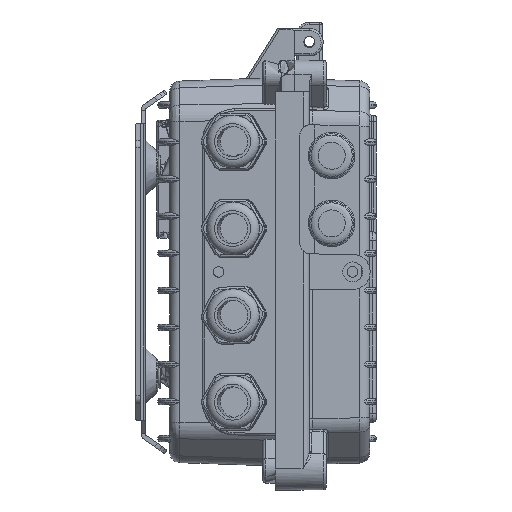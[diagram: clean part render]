
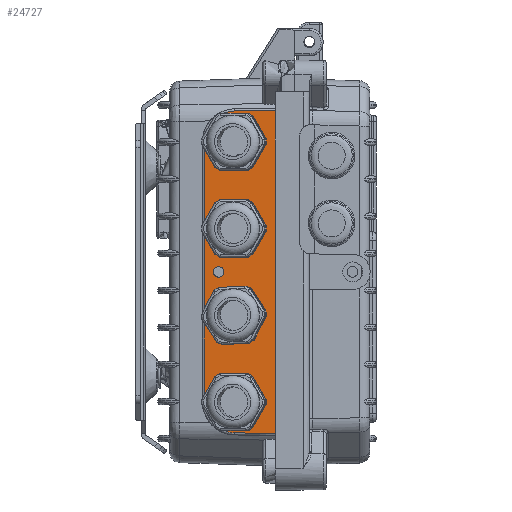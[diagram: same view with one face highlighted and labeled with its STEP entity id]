
A CAD part, left-side view. The second image highlights one B-rep face of the part: STEP entity #24727.
In plain terms, the highlighted planar face has unit normal (-0.999, 0.035, 0).
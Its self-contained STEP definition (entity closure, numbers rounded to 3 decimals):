
#1088=ELLIPSE('',#26645,14.509,14.5);
#1090=ELLIPSE('',#26650,14.509,14.5);
#1091=ELLIPSE('',#26653,2.502,2.5);
#1092=ELLIPSE('',#26654,10.306,10.3);
#1093=ELLIPSE('',#26655,10.306,10.3);
#1094=ELLIPSE('',#26656,10.306,10.3);
#1095=ELLIPSE('',#26657,10.306,10.3);
#2087=VECTOR('',#44666,1.);
#2088=VECTOR('',#44670,1.);
#2089=VECTOR('',#44674,1.);
#2090=VECTOR('',#44678,1.);
#2091=VECTOR('',#44683,1.);
#2094=VECTOR('',#44698,1.);
#2096=VECTOR('',#44708,1.);
#2097=VECTOR('',#44720,1.);
#3901=LINE('',#33081,#2087);
#3902=LINE('',#33086,#2088);
#3903=LINE('',#33091,#2089);
#3904=LINE('',#33096,#2090);
#3905=LINE('',#33119,#2091);
#3908=LINE('',#33164,#2094);
#3910=LINE('',#33220,#2096);
#3911=LINE('',#33228,#2097);
#5313=PLANE('',#26652);
#7160=VERTEX_POINT('',#33082);
#7161=VERTEX_POINT('',#33083);
#7162=VERTEX_POINT('',#33087);
#7163=VERTEX_POINT('',#33088);
#7164=VERTEX_POINT('',#33092);
#7165=VERTEX_POINT('',#33093);
#7166=VERTEX_POINT('',#33097);
#7167=VERTEX_POINT('',#33098);
#7168=VERTEX_POINT('',#33117);
#7170=VERTEX_POINT('',#33120);
#7172=VERTEX_POINT('',#33155);
#7174=VERTEX_POINT('',#33161);
#7176=VERTEX_POINT('',#33196);
#7179=VERTEX_POINT('',#33218);
#7180=VERTEX_POINT('',#33223);
#10678=EDGE_CURVE('',#7160,#7161,#3901,.T.);
#10680=EDGE_CURVE('',#7162,#7163,#3902,.T.);
#10682=EDGE_CURVE('',#7164,#7165,#3903,.T.);
#10684=EDGE_CURVE('',#7166,#7167,#3904,.T.);
#10687=EDGE_CURVE('',#7170,#7168,#3905,.T.);
#10692=EDGE_CURVE('',#7172,#7170,#1088,.T.);
#10695=EDGE_CURVE('',#7174,#7172,#3908,.T.);
#10698=EDGE_CURVE('',#7176,#7174,#1090,.T.);
#10701=EDGE_CURVE('',#7179,#7176,#3910,.T.);
#10702=EDGE_CURVE('',#7180,#7180,#1091,.T.);
#10703=EDGE_CURVE('',#7160,#7161,#1092,.T.);
#10704=EDGE_CURVE('',#7162,#7163,#1093,.T.);
#10705=EDGE_CURVE('',#7164,#7165,#1094,.T.);
#10706=EDGE_CURVE('',#7166,#7167,#1095,.T.);
#10707=EDGE_CURVE('',#7168,#7179,#3911,.T.);
#14897=ORIENTED_EDGE('',*,*,#10702,.F.);
#14898=ORIENTED_EDGE('',*,*,#10678,.F.);
#14899=ORIENTED_EDGE('',*,*,#10703,.T.);
#14900=ORIENTED_EDGE('',*,*,#10680,.F.);
#14901=ORIENTED_EDGE('',*,*,#10704,.T.);
#14902=ORIENTED_EDGE('',*,*,#10682,.F.);
#14903=ORIENTED_EDGE('',*,*,#10705,.T.);
#14904=ORIENTED_EDGE('',*,*,#10684,.F.);
#14905=ORIENTED_EDGE('',*,*,#10706,.T.);
#14906=ORIENTED_EDGE('',*,*,#10692,.T.);
#14907=ORIENTED_EDGE('',*,*,#10687,.T.);
#14908=ORIENTED_EDGE('',*,*,#10707,.T.);
#14909=ORIENTED_EDGE('',*,*,#10701,.T.);
#14910=ORIENTED_EDGE('',*,*,#10698,.T.);
#14911=ORIENTED_EDGE('',*,*,#10695,.T.);
#21195=EDGE_LOOP('',(#14897));
#21196=EDGE_LOOP('',(#14898,#14899));
#21197=EDGE_LOOP('',(#14900,#14901));
#21198=EDGE_LOOP('',(#14902,#14903));
#21199=EDGE_LOOP('',(#14904,#14905));
#21200=EDGE_LOOP('',(#14906,#14907,#14908,#14909,#14910,#14911));
#22998=FACE_BOUND('',#21195,.T.);
#22999=FACE_BOUND('',#21196,.T.);
#23000=FACE_BOUND('',#21197,.T.);
#23001=FACE_BOUND('',#21198,.T.);
#23002=FACE_BOUND('',#21199,.T.);
#23003=FACE_BOUND('',#21200,.T.);
#24727=ADVANCED_FACE('',(#22998,#22999,#23000,#23001,#23002,#23003),#5313,
 .T.);
#26645=AXIS2_PLACEMENT_3D('',#33158,#44691,#44692);
#26650=AXIS2_PLACEMENT_3D('',#33199,#44703,#44704);
#26652=AXIS2_PLACEMENT_3D('',#33221,#44709,$);
#26653=AXIS2_PLACEMENT_3D('',#33222,#44710,#44711);
#26654=AXIS2_PLACEMENT_3D('',#33224,#44712,#44713);
#26655=AXIS2_PLACEMENT_3D('',#33225,#44714,#44715);
#26656=AXIS2_PLACEMENT_3D('',#33226,#44716,#44717);
#26657=AXIS2_PLACEMENT_3D('',#33227,#44718,#44719);
#33081=CARTESIAN_POINT('',(-146.,17.727,0.));
#33082=CARTESIAN_POINT('',(-146.,17.727,60.75));
#33083=CARTESIAN_POINT('',(-146.,17.727,62.251));
#33086=CARTESIAN_POINT('',(-146.,17.727,0.));
#33087=CARTESIAN_POINT('',(-146.,17.727,19.75));
#33088=CARTESIAN_POINT('',(-146.,17.727,21.251));
#33091=CARTESIAN_POINT('',(-146.,17.727,0.));
#33092=CARTESIAN_POINT('',(-146.,17.727,-21.251));
#33093=CARTESIAN_POINT('',(-146.,17.727,-19.75));
#33096=CARTESIAN_POINT('',(-146.,17.727,0.));
#33097=CARTESIAN_POINT('',(-146.,17.727,-62.251));
#33098=CARTESIAN_POINT('',(-146.,17.727,-60.75));
#33117=CARTESIAN_POINT('',(-146.342,7.92,-76.351));
#33119=CARTESIAN_POINT('',(-146.343,7.903,-76.352));
#33120=CARTESIAN_POINT('',(-145.631,28.288,-75.996));
#33155=CARTESIAN_POINT('',(-145.134,42.535,-61.498));
#33158=CARTESIAN_POINT('',(-145.64,28.035,-61.498));
#33161=CARTESIAN_POINT('',(-145.134,42.535,61.498));
#33164=CARTESIAN_POINT('',(-145.134,42.535,0.));
#33196=CARTESIAN_POINT('',(-145.631,28.288,75.996));
#33199=CARTESIAN_POINT('',(-145.64,28.035,61.498));
#33218=CARTESIAN_POINT('',(-146.342,7.92,76.351));
#33220=CARTESIAN_POINT('',(-145.054,44.82,75.707));
#33221=CARTESIAN_POINT('',(-145.1,43.5,0.));
#33222=CARTESIAN_POINT('',(-145.365,35.9,0.));
#33223=CARTESIAN_POINT('',(-145.278,38.4,0.));
#33224=CARTESIAN_POINT('',(-145.641,28.,61.501));
#33225=CARTESIAN_POINT('',(-145.641,28.,20.501));
#33226=CARTESIAN_POINT('',(-145.641,28.,-20.501));
#33227=CARTESIAN_POINT('',(-145.641,28.,-61.501));
#33228=CARTESIAN_POINT('',(-146.342,7.92,93.));
#44666=DIRECTION('',(0.,0.,1.));
#44670=DIRECTION('',(0.,0.,1.));
#44674=DIRECTION('',(0.,0.,1.));
#44678=DIRECTION('',(0.,0.,1.));
#44683=DIRECTION('',(-0.035,-0.999,-0.017));
#44691=DIRECTION('',(-0.999,0.035,0.));
#44692=DIRECTION('',(-0.506,-14.5,0.));
#44698=DIRECTION('',(0.,0.,-1.));
#44703=DIRECTION('',(-0.999,0.035,0.));
#44704=DIRECTION('',(-0.506,-14.5,0.));
#44708=DIRECTION('',(0.035,0.999,-0.017));
#44709=DIRECTION('',(-0.999,0.035,0.));
#44710=DIRECTION('',(-0.999,0.035,0.));
#44711=DIRECTION('',(0.087,2.5,0.));
#44712=DIRECTION('',(0.999,-0.035,0.));
#44713=DIRECTION('',(-0.36,-10.3,0.));
#44714=DIRECTION('',(0.999,-0.035,0.));
#44715=DIRECTION('',(-0.36,-10.3,0.));
#44716=DIRECTION('',(0.999,-0.035,0.));
#44717=DIRECTION('',(-0.36,-10.3,0.));
#44718=DIRECTION('',(0.999,-0.035,0.));
#44719=DIRECTION('',(-0.36,-10.3,0.));
#44720=DIRECTION('',(0.,0.,1.));
